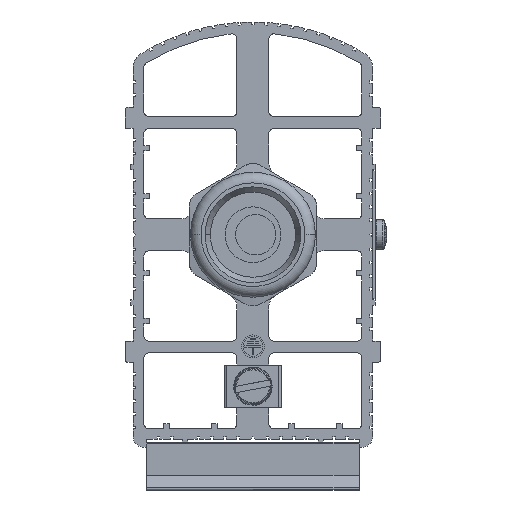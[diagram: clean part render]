
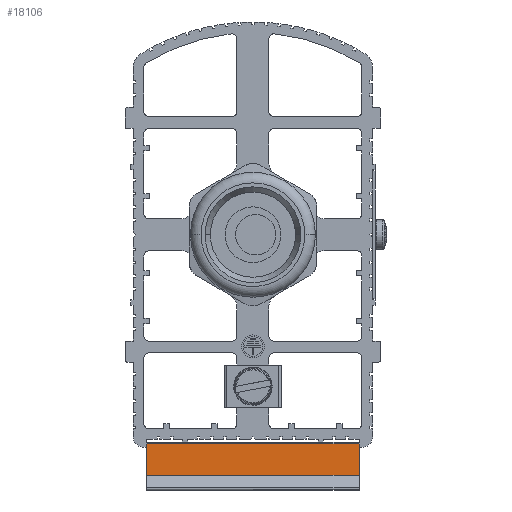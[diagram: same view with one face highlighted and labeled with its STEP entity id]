
A CAD part, front view. The second image highlights one B-rep face of the part: STEP entity #18106.
In plain terms, the highlighted planar face has unit normal (0, -1, 0).
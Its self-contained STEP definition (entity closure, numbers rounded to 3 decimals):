
#114 = LINE ( 'NONE', #21150, #26903 ) ;
#1479 = CARTESIAN_POINT ( 'NONE',  ( -19.95, 90.14, -45.191 ) ) ;
#3430 = DIRECTION ( 'NONE',  ( 0., 0., -1. ) ) ;
#4171 = EDGE_LOOP ( 'NONE', ( #14864, #6372, #14777, #19184 ) ) ;
#4319 = CARTESIAN_POINT ( 'NONE',  ( -19.95, 90.14, -45.271 ) ) ;
#6261 = VERTEX_POINT ( 'NONE', #24524 ) ;
#6372 = ORIENTED_EDGE ( 'NONE', *, *, #19995, .T. ) ;
#6917 = LINE ( 'NONE', #30823, #14403 ) ;
#7274 = LINE ( 'NONE', #4319, #11238 ) ;
#10459 = VERTEX_POINT ( 'NONE', #27152 ) ;
#11001 = DIRECTION ( 'NONE',  ( -1., 0., 0. ) ) ;
#11238 = VECTOR ( 'NONE', #24508, 1000. ) ;
#13806 = EDGE_CURVE ( 'NONE', #29597, #15732, #114, .T. ) ;
#14403 = VECTOR ( 'NONE', #11001, 1000. ) ;
#14576 = LINE ( 'NONE', #26632, #31132 ) ;
#14777 = ORIENTED_EDGE ( 'NONE', *, *, #13806, .T. ) ;
#14864 = ORIENTED_EDGE ( 'NONE', *, *, #29998, .T. ) ;
#15732 = VERTEX_POINT ( 'NONE', #29042 ) ;
#18106 = ADVANCED_FACE ( 'NONE', ( #20388 ), #25833, .F. ) ;
#19184 = ORIENTED_EDGE ( 'NONE', *, *, #28098, .T. ) ;
#19995 = EDGE_CURVE ( 'NONE', #10459, #29597, #7274, .T. ) ;
#20388 = FACE_OUTER_BOUND ( 'NONE', #4171, .T. ) ;
#21150 = CARTESIAN_POINT ( 'NONE',  ( 19.95, 90.14, -45.191 ) ) ;
#23257 = DIRECTION ( 'NONE',  ( 1., 0., 0. ) ) ;
#24508 = DIRECTION ( 'NONE',  ( 0., 0., -1. ) ) ;
#24524 = CARTESIAN_POINT ( 'NONE',  ( 19.95, 90.14, -39.3 ) ) ;
#25833 = PLANE ( 'NONE',  #28175 ) ;
#25921 = DIRECTION ( 'NONE',  ( 0., 1., 0. ) ) ;
#26632 = CARTESIAN_POINT ( 'NONE',  ( 19.95, 90.14, -45.271 ) ) ;
#26903 = VECTOR ( 'NONE', #23257, 1000. ) ;
#27152 = CARTESIAN_POINT ( 'NONE',  ( -19.95, 90.14, -39.3 ) ) ;
#28098 = EDGE_CURVE ( 'NONE', #15732, #6261, #14576, .T. ) ;
#28175 = AXIS2_PLACEMENT_3D ( 'NONE', #28334, #25921, #3430 ) ;
#28334 = CARTESIAN_POINT ( 'NONE',  ( -980.05, 90.14, -45.271 ) ) ;
#29042 = CARTESIAN_POINT ( 'NONE',  ( 19.95, 90.14, -45.191 ) ) ;
#29172 = DIRECTION ( 'NONE',  ( 0., 0., 1. ) ) ;
#29597 = VERTEX_POINT ( 'NONE', #1479 ) ;
#29998 = EDGE_CURVE ( 'NONE', #6261, #10459, #6917, .T. ) ;
#30823 = CARTESIAN_POINT ( 'NONE',  ( -980.05, 90.14, -39.3 ) ) ;
#31132 = VECTOR ( 'NONE', #29172, 1000. ) ;
